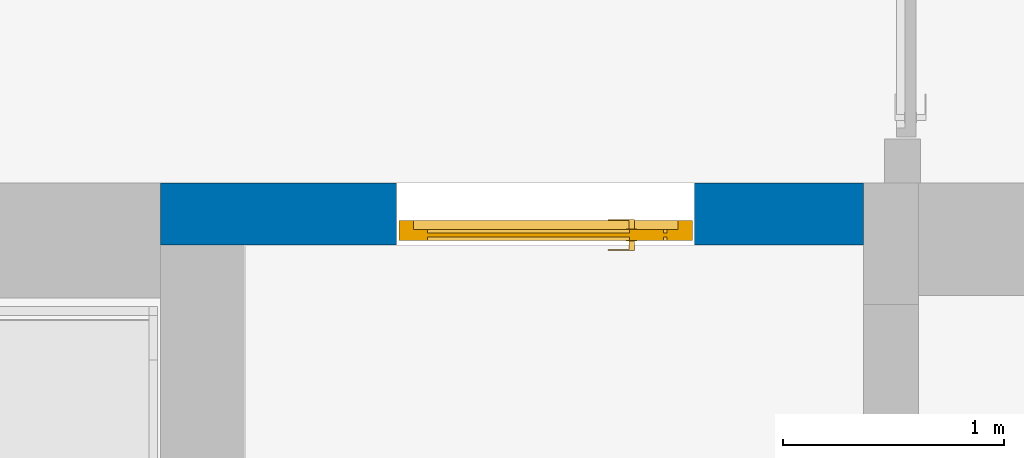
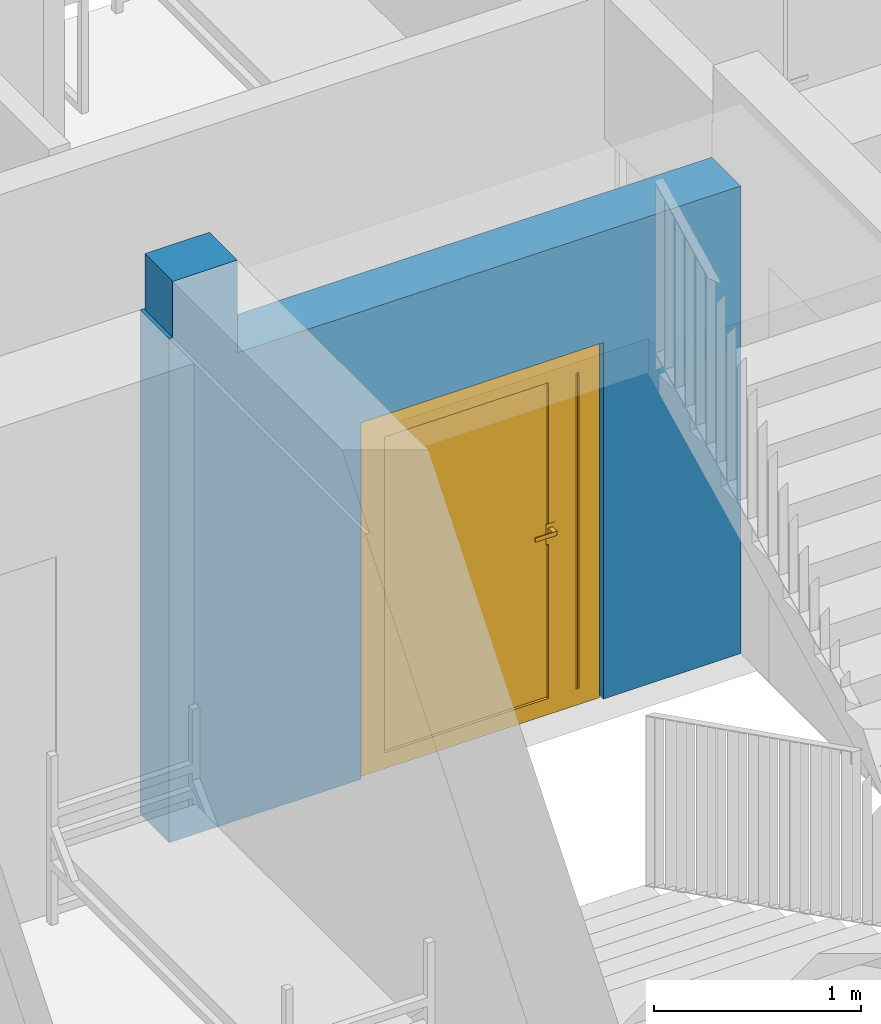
# One storey, part 15 of 48: 1 door, 1 wall, 1 opening.
"""IFC2X3 building model written with IfcOpenShell, lengths in millimetres."""

from ifc_helpers import new_model, entity, si_unit, converted_unit, derived_unit, direction, frame, frame_2d, origin, place, context, subcontext, project, spatial, rectangle, extrude, faceted_brep, source, transform, mapped, material, material_list, layer, layer_set, type_object, type_shapes, element, fill, save


model = new_model("IFC2X3")

# Units and contexts
model_context = context("Model", 3, precision=0.01, world=origin(), true_north=direction((6.12303176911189e-17, 1.0)))
body_context = subcontext(model_context, "Body", "Model", "MODEL_VIEW")
ifc_project = project(units=[si_unit("LENGTHUNIT", "METRE", prefix="MILLI"), si_unit("AREAUNIT", "SQUARE_METRE"), si_unit("VOLUMEUNIT", "CUBIC_METRE"), converted_unit("PLANEANGLEUNIT", "DEGREE", entity("IfcRatioMeasure", 0.0174532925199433), si_unit("PLANEANGLEUNIT", "RADIAN"), dimensions=[0, 0, 0, 0, 0, 0, 0]), si_unit("MASSUNIT", "GRAM", prefix="KILO"), derived_unit("MASSDENSITYUNIT", [(si_unit("MASSUNIT", "GRAM", prefix="KILO"), 1), (si_unit("LENGTHUNIT", "METRE"), -3)]), si_unit("TIMEUNIT", "SECOND"), si_unit("FREQUENCYUNIT", "HERTZ"), si_unit("THERMODYNAMICTEMPERATUREUNIT", "DEGREE_CELSIUS"), derived_unit("THERMALTRANSMITTANCEUNIT", [(si_unit("MASSUNIT", "GRAM", prefix="KILO"), 1), (si_unit("THERMODYNAMICTEMPERATUREUNIT", "KELVIN"), -1), (si_unit("TIMEUNIT", "SECOND"), -3)]), derived_unit("VOLUMETRICFLOWRATEUNIT", [(si_unit("LENGTHUNIT", "METRE"), 3), (si_unit("TIMEUNIT", "SECOND"), -1)]), si_unit("ELECTRICCURRENTUNIT", "AMPERE"), si_unit("ELECTRICVOLTAGEUNIT", "VOLT"), si_unit("POWERUNIT", "WATT"), si_unit("FORCEUNIT", "NEWTON", prefix="KILO"), si_unit("ILLUMINANCEUNIT", "LUX"), si_unit("LUMINOUSFLUXUNIT", "LUMEN"), si_unit("LUMINOUSINTENSITYUNIT", "CANDELA"), derived_unit("USERDEFINED", [(si_unit("MASSUNIT", "GRAM", prefix="KILO"), -1), (si_unit("LENGTHUNIT", "METRE"), -2), (si_unit("TIMEUNIT", "SECOND"), 3), (si_unit("LUMINOUSFLUXUNIT", "LUMEN"), 1)]), derived_unit("LINEARVELOCITYUNIT", [(si_unit("LENGTHUNIT", "METRE"), 1), (si_unit("TIMEUNIT", "SECOND"), -1)]), si_unit("PRESSUREUNIT", "PASCAL"), derived_unit("USERDEFINED", [(si_unit("LENGTHUNIT", "METRE"), -2), (si_unit("MASSUNIT", "GRAM", prefix="KILO"), 1), (si_unit("TIMEUNIT", "SECOND"), -2)]), derived_unit("LINEARFORCEUNIT", [(si_unit("MASSUNIT", "GRAM", prefix="KILO"), 1), (si_unit("LENGTHUNIT", "METRE"), 1), (si_unit("TIMEUNIT", "SECOND"), -2), (si_unit("LENGTHUNIT", "METRE"), -1)]), derived_unit("PLANARFORCEUNIT", [(si_unit("MASSUNIT", "GRAM", prefix="KILO"), 1), (si_unit("LENGTHUNIT", "METRE"), 1), (si_unit("TIMEUNIT", "SECOND"), -2), (si_unit("LENGTHUNIT", "METRE"), -2)])], contexts=[model_context])

# Site, building, storey
site_placement = place(None, origin())
site = spatial("IfcSite", under=ifc_project, at=site_placement, Name="Default", CompositionType="ELEMENT")
building_placement = place(site_placement, origin())
building = spatial("IfcBuilding", under=site, at=building_placement, Name="SMA ARH", CompositionType="ELEMENT")
storey_placement = place(building_placement, frame((0.0, 0.0, 3300.0)))
storey = spatial("IfcBuildingStorey", under=building, at=storey_placement, Name="2 Korrus", CompositionType="ELEMENT", Elevation=3299.99999999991)

# Wall, opening, door
ifc_material_1 = material(Name="_ol.olev sein")
ifc_layer = layer(ifc_material_1, 280.0)
ifc_layer_set = layer_set([ifc_layer], Name="Basic Wall:Generic - 280mm")
wall_type = type_object("IfcWallType", Name="Basic Wall:Generic - 280mm", PredefinedType="STANDARD", material=ifc_layer_set)
wall_placement = place(storey_placement, frame((30430.0, 6380.0, 0.0)))
wall = element("IfcWall", 1, at=wall_placement, inside=storey, type_object=wall_type, Name="Basic Wall:Generic - 280mm", ObjectType="Basic Wall:Generic - 280mm", context=body_context, shape_type="Brep", body=[
    faceted_brep([(0.0, -140.0, 0.0), (380.0, -140.0, 0.0), (400.0, -140.0, 0.0), (1070.0, -140.0, 0.0), (1070.0, -140.0, 2100.0), (2420.0, -140.0, 2100.0), (2420.0, -140.0, 0.0), (3185.0, -140.0, 0.0), (3185.0, -140.0, 2754.20230841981), (380.0, -140.0, 2754.20230841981), (380.0, -140.0, 3300.0), (20.0, -140.0, 3300.0), (20.0, -140.0, 2970.0), (0.0, -140.0, 2970.0), (0.0, -140.0, 2950.0), (1070.0, 140.0, 0.0), (400.0, 140.0, 0.0), (0.0, 140.0, 0.0), (0.0, 140.0, 2970.0), (380.0, 140.0, 2970.0), (380.0, 140.0, 2754.20230841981), (3185.0, 140.0, 2754.20230841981), (3185.0, 140.0, 0.0), (2420.0, 140.0, 0.0), (2420.0, 140.0, 2100.0), (1070.0, 140.0, 2100.0), (380.0, 130.0, 3300.0), (20.0, 130.0, 3300.0), (20.0, 130.0, 2970.0), (380.0, 130.0, 2970.0)], [[[0, 1, 2, 3, 4, 5, 6, 7, 8, 9, 10, 11, 12, 13, 14]], [[15, 16, 17, 18, 19, 20, 21, 22, 23, 24, 25]], [[3, 2, 1, 0, 17, 16, 15]], [[11, 10, 26, 27]], [[25, 4, 3, 15]], [[4, 25, 24, 5]], [[5, 24, 23, 6]], [[7, 22, 21, 8]], [[9, 8, 21, 20]], [[12, 28, 29, 19, 18, 13]], [[29, 28, 27, 26]], [[28, 12, 11, 27]], [[17, 0, 14, 13, 18]], [[9, 20, 19, 29, 26, 10]], [[7, 6, 23, 22]]]),
])
opening_placement = place(wall_placement, frame((2420.0, 140.0, 0.0)))
opening = element("IfcOpeningElement", 2, at=opening_placement, cuts=wall, Name="SMA_D02, 2-poolne:SU-AL-03 - 1350x2100:1", ObjectType="Opening", context=body_context, shape_type="SweptSolid", body=[
    extrude(rectangle(XDim=2099.99999999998, YDim=1350.0, at=frame_2d((1049.99999999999, 675.0), x_axis=(1.0, 0.0))), frame((0.0, 0.0, 0.0), z_axis=(0.0, -1.0, 0.0), x_axis=(0.0, 0.0, 1.0)), (0.0, 0.0, 1.0), 280.0),
])
ifc_material_2 = material(Name="EST. Metall. Plekk. Värvitud. RAL7023 (Concrete grey)")
ifc_material_3 = material(Name="EST. Klaas. 3x. Default")
ifc_material_list_1 = material_list([ifc_material_2, ifc_material_3])
ifc_material_4 = material(Name="<Unnamed>")
ifc_material_list_2 = material_list([ifc_material_4, ifc_material_4, ifc_material_2, ifc_material_3, ifc_material_4, ifc_material_2, ifc_material_2])
door_style = type_object("IfcDoorStyle", Name="SMA_D02, 2-poolne:SU-AL-03 - 1350x2100", ConstructionType="NOTDEFINED", OperationType="SINGLE_SWING_RIGHT", ParameterTakesPrecedence=False, Sizeable=False, material=ifc_material_list_2)
shared_shape = source(origin(), body_context, "Body", "Brep", [
    faceted_brep([(297.499999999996, 170.0, 1100.0), (297.499999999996, 208.0, 1100.0), (272.499999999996, 208.0, 1100.0), (272.499999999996, 165.0, 1100.0), (392.499999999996, 165.0, 1100.0), (392.499999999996, 170.0, 1100.0), (297.499999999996, 170.0, 1075.0), (392.499999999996, 170.0, 1075.0), (392.499999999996, 165.0, 1075.0), (272.499999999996, 165.0, 1075.0), (272.499999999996, 208.0, 1075.0), (297.499999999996, 208.0, 1075.0)], [[[0, 1, 2, 3, 4, 5]], [[6, 7, 8, 9, 10, 11]], [[1, 0, 6, 11]], [[2, 1, 11, 10]], [[3, 2, 10, 9]], [[4, 3, 9, 8]], [[5, 4, 8, 7]], [[0, 5, 7, 6]]]),
    faceted_brep([(310.0, 208.0, 1125.0), (310.0, 210.0, 1125.0), (260.0, 210.0, 1125.0), (260.0, 208.0, 1125.0), (310.0, 208.0, 1005.0), (260.0, 208.0, 1005.0), (260.0, 210.0, 1005.0), (310.0, 210.0, 1005.0)], [[[0, 1, 2, 3]], [[4, 5, 6, 7]], [[1, 0, 4, 7]], [[2, 1, 7, 6]], [[3, 2, 6, 5]], [[0, 3, 5, 4]]]),
    faceted_brep([(297.499999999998, 300.0, 1100.0), (392.499999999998, 300.0, 1100.0), (392.499999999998, 305.0, 1100.0), (272.499999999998, 305.0, 1100.0), (272.499999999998, 262.0, 1100.0), (297.499999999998, 262.0, 1100.0), (297.499999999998, 300.0, 1075.0), (297.499999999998, 262.0, 1075.0), (272.499999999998, 262.0, 1075.0), (272.499999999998, 305.0, 1075.0), (392.499999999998, 305.0, 1075.0), (392.499999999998, 300.0, 1075.0)], [[[0, 1, 2, 3, 4, 5]], [[6, 7, 8, 9, 10, 11]], [[5, 7, 6, 0]], [[4, 8, 7, 5]], [[3, 9, 8, 4]], [[2, 10, 9, 3]], [[1, 11, 10, 2]], [[0, 6, 11, 1]]]),
    faceted_brep([(310.0, 262.0, 1125.0), (260.0, 262.0, 1125.0), (260.0, 260.0, 1125.0), (310.0, 260.0, 1125.0), (310.0, 262.0, 1005.0), (310.0, 260.0, 1005.0), (260.0, 260.0, 1005.0), (260.0, 262.0, 1005.0)], [[[0, 1, 2, 3]], [[4, 5, 6, 7]], [[3, 5, 4, 0]], [[2, 6, 5, 3]], [[1, 7, 6, 2]], [[0, 4, 7, 1]]]),
    faceted_brep([(1274.5, 170.0, 30.0), (1274.5, 170.0, 0.0), (1274.5, 210.0, 0.0), (1274.5, 210.0, 20.0), (1274.5, 210.0, 30.0), (75.4999999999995, 170.0, 30.0), (75.4999999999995, 210.0, 30.0), (75.4999999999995, 210.0, 20.0), (75.4999999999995, 210.0, 0.0), (75.4999999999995, 170.0, 0.0), (65.4999999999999, 210.0, 0.0), (65.4999999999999, 260.0, 0.0), (1284.5, 260.0, 0.0), (1284.5, 210.0, 0.0), (1284.5, 260.0, 20.0), (1284.5, 210.0, 20.0), (65.4999999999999, 260.0, 20.0), (65.4999999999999, 210.0, 20.0)], [[[0, 1, 2, 3, 4]], [[5, 6, 7, 8, 9]], [[1, 0, 5, 9]], [[2, 1, 9, 8, 10, 11, 12, 13]], [[6, 4, 3, 7]], [[0, 4, 6, 5]], [[14, 15, 13, 12]], [[16, 11, 10, 17]], [[15, 14, 16, 17, 7, 3]], [[13, 15, 3, 2]], [[14, 12, 11, 16]], [[17, 10, 8, 7]]]),
    faceted_brep([(1340.0, 170.0, 0.0), (1274.5, 170.0, 0.0), (1274.5, 210.0, 0.0), (1284.5, 210.0, 0.0), (1284.5, 260.0, 0.0), (1340.0, 260.0, 0.0), (1340.0, 170.0, 2090.0), (10.0, 170.0, 2090.0), (10.0, 170.0, 0.0), (75.4999999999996, 170.0, 0.0), (75.4999999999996, 170.0, 2024.49999999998), (1274.5, 170.0, 2024.49999999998), (1274.5, 210.0, 2024.49999999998), (75.5000000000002, 210.0, 2024.49999999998), (75.5000000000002, 210.0, 0.0), (65.5000000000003, 210.0, 0.0), (65.5000000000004, 210.0, 2034.49999999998), (1284.5, 210.0, 2034.49999999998), (1284.5, 260.0, 2034.49999999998), (65.5, 260.0, 2034.49999999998), (65.5, 260.0, 0.0), (10.0, 260.0, 0.0), (10.0, 260.0, 2090.0), (1340.0, 260.0, 2090.0)], [[[0, 1, 2, 3, 4, 5]], [[1, 0, 6, 7, 8, 9, 10, 11]], [[2, 1, 11, 12]], [[3, 2, 12, 13, 14, 15, 16, 17]], [[4, 3, 17, 18]], [[5, 4, 18, 19, 20, 21, 22, 23]], [[0, 5, 23, 6]], [[8, 7, 22, 21]], [[9, 8, 21, 20, 15, 14]], [[10, 9, 14, 13]], [[16, 15, 20, 19]], [[11, 10, 13, 12]], [[17, 16, 19, 18]], [[7, 6, 23, 22]]]),
    faceted_brep([(140.500000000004, 225.0, 95.0), (140.500000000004, 225.0, 1955.0), (125.0, 225.0, 1955.0), (125.0, 225.0, 95.0), (140.500000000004, 245.0, 95.0), (125.0, 245.0, 95.0), (125.0, 245.0, 1955.0), (140.500000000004, 245.0, 1955.0)], [[[0, 1, 2, 3]], [[4, 5, 6, 7]], [[0, 3, 5, 4]], [[3, 2, 6, 5]], [[2, 1, 7, 6]], [[1, 0, 4, 7]]]),
    faceted_brep([(295.0, 225.0, 95.0), (1209.5, 225.0, 95.0), (1209.5, 225.0, 1955.0), (295.0, 225.0, 1955.0), (295.0, 245.0, 95.0), (295.0, 245.0, 1955.0), (1209.5, 245.0, 1955.0), (1209.5, 245.0, 95.0)], [[[0, 1, 2, 3]], [[4, 5, 6, 7]], [[1, 0, 4, 7]], [[2, 1, 7, 6]], [[3, 2, 6, 5]], [[0, 3, 5, 4]]]),
    faceted_brep([(210.0, 210.0, 2034.49999999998), (65.4999999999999, 210.0, 2034.49999999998), (65.4999999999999, 210.0, 20.0), (210.0, 210.0, 20.0), (140.500000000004, 210.0, 1955.0), (140.500000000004, 210.0, 95.0), (125.0, 210.0, 95.0), (125.0, 210.0, 1955.0), (210.0, 260.0, 2034.49999999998), (210.0, 260.0, 20.0), (65.4999999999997, 260.0, 20.0), (65.4999999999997, 260.0, 2034.49999999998), (140.500000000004, 260.0, 95.0), (140.500000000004, 260.0, 1955.0), (125.0, 260.0, 1955.0), (125.0, 260.0, 95.0)], [[[0, 1, 2, 3], [4, 5, 6, 7]], [[8, 9, 10, 11], [12, 13, 14, 15]], [[1, 0, 8, 11]], [[2, 1, 11, 10]], [[3, 2, 10, 9]], [[0, 3, 9, 8]], [[12, 5, 4, 13]], [[5, 12, 15, 6]], [[6, 15, 14, 7]], [[7, 14, 13, 4]]]),
    faceted_brep([(210.0, 210.0, 2034.49999999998), (210.0, 210.0, 20.0), (1284.5, 210.0, 20.0), (1284.5, 210.0, 2034.49999999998), (295.0, 210.0, 95.0), (295.0, 210.0, 1955.0), (1209.5, 210.0, 1955.0), (1209.5, 210.0, 95.0), (210.0, 260.0, 2034.49999999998), (1284.5, 260.0, 2034.49999999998), (1284.5, 260.0, 20.0), (210.0, 260.0, 20.0), (295.0, 260.0, 1955.0), (295.0, 260.0, 95.0), (1209.5, 260.0, 95.0), (1209.5, 260.0, 1955.0)], [[[0, 1, 2, 3], [4, 5, 6, 7]], [[8, 9, 10, 11], [12, 13, 14, 15]], [[1, 0, 8, 11]], [[2, 1, 11, 10]], [[3, 2, 10, 9]], [[0, 3, 9, 8]], [[12, 5, 4, 13]], [[13, 4, 7, 14]], [[14, 7, 6, 15]], [[5, 12, 15, 6]]]),
])
type_shapes(door_style, [shared_shape])
door_placement = place(opening_placement, frame((0.0, 0.0, 0.0), z_axis=(0.0, 0.0, 1.0), x_axis=(-1.0, 0.0, 0.0)))
door = element("IfcDoor", 3, at=door_placement, inside=storey, type_object=door_style, material=ifc_material_list_1, Name="SMA_D02, 2-poolne:SU-AL-03 - 1350x2100", ObjectType="SMA_D02, 2-poolne:SU-AL-03 - 1350x2100", OverallHeight=2099.99999999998, OverallWidth=1350.0, context=body_context, shape_type="MappedRepresentation", body=[
    mapped(shared_shape, transform((0.0, 0.0, 0.0), scale=1.0)),
])
fill(opening, door)

save(model, "model.ifc")
